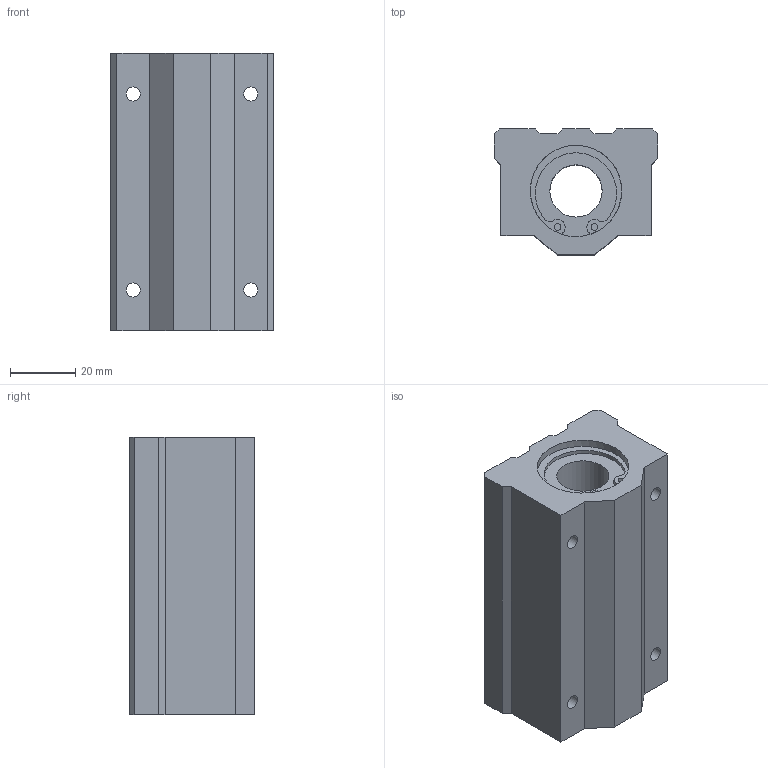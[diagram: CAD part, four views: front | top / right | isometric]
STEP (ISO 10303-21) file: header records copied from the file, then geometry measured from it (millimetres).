
FILE_DESCRIPTION(('STEP AP203'),'1');
FILE_NAME('//192.168.1.1/share/s-4 技術開発/s-4-4_CAD/s-4-4-3_見直し済み/008 修正済み/LC-L/LC-L_TOP/LC-16VLUU.step','2022-05-19T01:17:30',(' '),(' '),'Spatial InterOp 3D',' ',' ');
FILE_SCHEMA(('CONFIG_CONTROL_DESIGN'));
Length unit declared in the file: millimetre
Products named in the file (1): 1
Bounding box: 50 x 38.5 x 85 mm (x, y, z)
Volume: 116517.3 mm3; surface area: 23304.5 mm2
Topology: 1 solids, 1 shells, 65 faces, 171 edges, 114 vertices
Faces by surface type: plane 36, cylinder 29
Full cylindrical faces by diameter (mm): 2 x4, 4.3 x8, 16 x1, 28 x2
Entity records: 1956 total; most frequent: DIRECTION 338, CARTESIAN_POINT 324, ORIENTED_EDGE 300, EDGE_CURVE 150, AXIS2_PLACEMENT_3D 122, VERTEX_POINT 108, EDGE_LOOP 96, LINE 94
